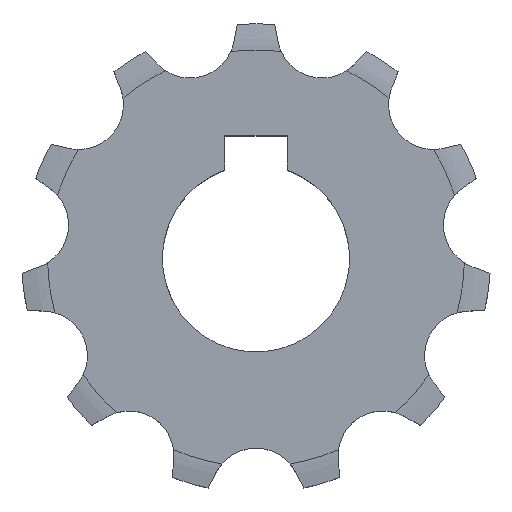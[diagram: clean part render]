
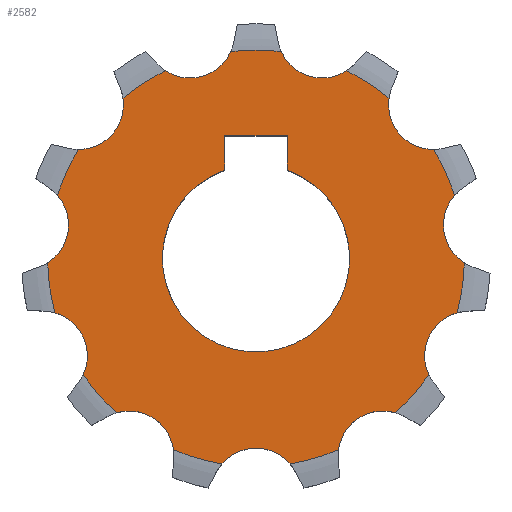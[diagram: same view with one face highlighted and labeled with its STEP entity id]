
A CAD part, top view. The second image highlights one B-rep face of the part: STEP entity #2582.
In plain terms, the highlighted planar face has unit normal (0, 0, 1).
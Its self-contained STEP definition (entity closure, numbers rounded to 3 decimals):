
#33=CARTESIAN_POINT('',(6.35,21.626,3.6));
#34=DIRECTION('',(0.,0.,1.));
#35=DIRECTION('',(-0.913,-0.408,0.));
#36=AXIS2_PLACEMENT_3D('',#33,#34,#35);
#42=CARTESIAN_POINT('',(0.,0.,3.6));
#43=DIRECTION('',(0.,0.,-1.));
#44=DIRECTION('',(0.435,0.901,0.));
#45=AXIS2_PLACEMENT_3D('',#42,#43,#44);
#50=CARTESIAN_POINT('',(17.034,14.76,3.6));
#51=DIRECTION('',(0.,0.,1.));
#52=DIRECTION('',(-0.989,0.151,0.));
#53=AXIS2_PLACEMENT_3D('',#50,#51,#52);
#58=CARTESIAN_POINT('',(0.,0.,3.6));
#59=DIRECTION('',(0.,0.,-1.));
#60=DIRECTION('',(0.853,0.523,0.));
#61=AXIS2_PLACEMENT_3D('',#58,#59,#60);
#66=CARTESIAN_POINT('',(22.31,3.208,3.6));
#67=DIRECTION('',(0.,0.,1.));
#68=DIRECTION('',(-0.75,0.661,0.));
#69=AXIS2_PLACEMENT_3D('',#66,#67,#68);
#74=CARTESIAN_POINT('',(0.,0.,3.6));
#75=DIRECTION('',(0.,0.,-1.));
#76=DIRECTION('',(1.,-0.021,0.));
#77=AXIS2_PLACEMENT_3D('',#74,#75,#76);
#82=CARTESIAN_POINT('',(20.502,-9.363,3.6));
#83=DIRECTION('',(0.,0.,1.));
#84=DIRECTION('',(-0.273,0.962,0.));
#85=AXIS2_PLACEMENT_3D('',#82,#83,#84);
#90=CARTESIAN_POINT('',(0.,0.,3.6));
#91=DIRECTION('',(0.,0.,-1.));
#92=DIRECTION('',(0.83,-0.558,0.));
#93=AXIS2_PLACEMENT_3D('',#90,#91,#92);
#98=CARTESIAN_POINT('',(12.186,-18.961,3.6));
#99=DIRECTION('',(0.,0.,1.));
#100=DIRECTION('',(0.29,0.957,0.));
#101=AXIS2_PLACEMENT_3D('',#98,#99,#100);
#106=CARTESIAN_POINT('',(0.,0.,3.6));
#107=DIRECTION('',(0.,0.,-1.));
#108=DIRECTION('',(0.396,-0.918,0.));
#109=AXIS2_PLACEMENT_3D('',#106,#107,#108);
#114=CARTESIAN_POINT('',(0.,-22.539,3.6));
#115=DIRECTION('',(0.,0.,1.));
#116=DIRECTION('',(0.761,0.648,0.));
#117=AXIS2_PLACEMENT_3D('',#114,#115,#116);
#122=CARTESIAN_POINT('',(0.,0.,3.6));
#123=DIRECTION('',(0.,0.,-1.));
#124=DIRECTION('',(-0.163,-0.987,0.));
#125=AXIS2_PLACEMENT_3D('',#122,#123,#124);
#130=CARTESIAN_POINT('',(-12.186,-18.961,3.6));
#131=DIRECTION('',(0.,0.,1.));
#132=DIRECTION('',(0.991,0.134,0.));
#133=AXIS2_PLACEMENT_3D('',#130,#131,#132);
#138=CARTESIAN_POINT('',(0.,0.,3.6));
#139=DIRECTION('',(0.,0.,-1.));
#140=DIRECTION('',(-0.671,-0.742,0.));
#141=AXIS2_PLACEMENT_3D('',#138,#139,#140);
#146=CARTESIAN_POINT('',(-20.502,-9.363,3.6));
#147=DIRECTION('',(0.,0.,1.));
#148=DIRECTION('',(0.906,-0.423,0.));
#149=AXIS2_PLACEMENT_3D('',#146,#147,#148);
#154=CARTESIAN_POINT('',(0.,0.,3.6));
#155=DIRECTION('',(0.,0.,-1.));
#156=DIRECTION('',(-0.965,-0.261,0.));
#157=AXIS2_PLACEMENT_3D('',#154,#155,#156);
#162=CARTESIAN_POINT('',(-22.31,3.208,3.6));
#163=DIRECTION('',(0.,0.,1.));
#164=DIRECTION('',(0.533,-0.846,0.));
#165=AXIS2_PLACEMENT_3D('',#162,#163,#164);
#170=CARTESIAN_POINT('',(0.,0.,3.6));
#171=DIRECTION('',(0.,0.,-1.));
#172=DIRECTION('',(-0.953,0.302,0.));
#173=AXIS2_PLACEMENT_3D('',#170,#171,#172);
#178=CARTESIAN_POINT('',(-17.034,14.76,3.6));
#179=DIRECTION('',(0.,0.,1.));
#180=DIRECTION('',(-0.009,-1.,0.));
#181=AXIS2_PLACEMENT_3D('',#178,#179,#180);
#186=CARTESIAN_POINT('',(0.,0.,3.6));
#187=DIRECTION('',(0.,0.,-1.));
#188=DIRECTION('',(-0.639,0.77,0.));
#189=AXIS2_PLACEMENT_3D('',#186,#187,#188);
#194=CARTESIAN_POINT('',(-6.35,21.626,3.6));
#195=DIRECTION('',(0.,0.,1.));
#196=DIRECTION('',(-0.548,-0.837,0.));
#197=AXIS2_PLACEMENT_3D('',#194,#195,#196);
#202=DIRECTION('',(0.,1.,0.));
#203=VECTOR('',#202,3.315);
#204=CARTESIAN_POINT('',(3.,8.485,3.6));
#205=LINE('',#204,#203);
#209=DIRECTION('',(-1.,0.,0.));
#210=VECTOR('',#209,6.);
#211=CARTESIAN_POINT('',(3.,11.8,3.6));
#212=LINE('',#211,#210);
#216=DIRECTION('',(0.,-1.,0.));
#217=VECTOR('',#216,3.315);
#218=CARTESIAN_POINT('',(-3.,11.8,3.6));
#219=LINE('',#218,#217);
#255=CARTESIAN_POINT('',(0.,0.,3.6));
#256=DIRECTION('',(0.,0.,1.));
#257=DIRECTION('',(0.121,0.993,0.));
#258=AXIS2_PLACEMENT_3D('',#255,#256,#257);
#1224=CARTESIAN_POINT('',(0.,0.,3.6));
#1225=DIRECTION('',(0.,0.,-1.));
#1226=DIRECTION('',(0.333,0.943,0.));
#1227=AXIS2_PLACEMENT_3D('',#1224,#1225,#1226);
#1416=CARTESIAN_POINT('',(2.426,19.874,3.6));
#2243=CARTESIAN_POINT('',(8.704,18.031,3.6));
#2244=CARTESIAN_POINT('',(12.786,15.408,3.6));
#2245=VERTEX_POINT('',#2243);
#2246=VERTEX_POINT('',#2244);
#2247=CARTESIAN_POINT('',(17.071,10.463,3.6));
#2248=CARTESIAN_POINT('',(19.086,6.05,3.6));
#2249=VERTEX_POINT('',#2247);
#2250=VERTEX_POINT('',#2248);
#2251=CARTESIAN_POINT('',(20.017,-0.427,3.6));
#2252=CARTESIAN_POINT('',(19.327,-5.229,3.6));
#2253=VERTEX_POINT('',#2251);
#2254=VERTEX_POINT('',#2252);
#2255=CARTESIAN_POINT('',(-3.272,-19.753,3.6));
#2256=CARTESIAN_POINT('',(-7.927,-18.386,3.6));
#2257=VERTEX_POINT('',#2255);
#2258=VERTEX_POINT('',#2256);
#2259=CARTESIAN_POINT('',(-13.432,-14.848,3.6));
#2260=CARTESIAN_POINT('',(-16.609,-11.182,3.6));
#2261=VERTEX_POINT('',#2259);
#2262=VERTEX_POINT('',#2260);
#2263=CARTESIAN_POINT('',(-19.327,-5.229,3.6));
#2264=CARTESIAN_POINT('',(-20.017,-0.427,3.6));
#2265=VERTEX_POINT('',#2263);
#2266=VERTEX_POINT('',#2264);
#2267=CARTESIAN_POINT('',(-19.086,6.05,3.6));
#2268=CARTESIAN_POINT('',(-17.071,10.463,3.6));
#2269=VERTEX_POINT('',#2267);
#2270=VERTEX_POINT('',#2268);
#2300=VERTEX_POINT('',#1416);
#2323=CARTESIAN_POINT('',(16.609,-11.182,3.6));
#2324=VERTEX_POINT('',#2323);
#2327=CARTESIAN_POINT('',(13.432,-14.848,3.6));
#2328=CARTESIAN_POINT('',(7.927,-18.386,3.6));
#2329=VERTEX_POINT('',#2327);
#2330=VERTEX_POINT('',#2328);
#2335=CARTESIAN_POINT('',(3.272,-19.753,3.6));
#2336=VERTEX_POINT('',#2335);
#2359=CARTESIAN_POINT('',(-12.786,15.408,3.6));
#2360=CARTESIAN_POINT('',(-8.704,18.031,3.6));
#2361=VERTEX_POINT('',#2359);
#2362=VERTEX_POINT('',#2360);
#2467=CARTESIAN_POINT('',(-2.426,19.874,3.6));
#2468=VERTEX_POINT('',#2467);
#2479=CARTESIAN_POINT('',(3.,8.485,3.6));
#2480=VERTEX_POINT('',#2479);
#2481=CARTESIAN_POINT('',(-3.,8.485,3.6));
#2482=VERTEX_POINT('',#2481);
#2483=CARTESIAN_POINT('',(3.,11.8,3.6));
#2484=VERTEX_POINT('',#2483);
#2485=CARTESIAN_POINT('',(-3.,11.8,3.6));
#2486=VERTEX_POINT('',#2485);
#2521=CARTESIAN_POINT('',(0.,0.,3.6));
#2522=DIRECTION('',(0.,0.,1.));
#2523=DIRECTION('',(1.,0.,0.));
#2524=AXIS2_PLACEMENT_3D('',#2521,#2522,#2523);
#2525=PLANE('',#2524);
#2527=ORIENTED_EDGE('',*,*,#2526,.F.);
#2529=ORIENTED_EDGE('',*,*,#2528,.T.);
#2531=ORIENTED_EDGE('',*,*,#2530,.T.);
#2533=ORIENTED_EDGE('',*,*,#2532,.T.);
#2535=ORIENTED_EDGE('',*,*,#2534,.T.);
#2537=ORIENTED_EDGE('',*,*,#2536,.T.);
#2539=ORIENTED_EDGE('',*,*,#2538,.T.);
#2541=ORIENTED_EDGE('',*,*,#2540,.T.);
#2543=ORIENTED_EDGE('',*,*,#2542,.T.);
#2545=ORIENTED_EDGE('',*,*,#2544,.T.);
#2547=ORIENTED_EDGE('',*,*,#2546,.T.);
#2549=ORIENTED_EDGE('',*,*,#2548,.T.);
#2551=ORIENTED_EDGE('',*,*,#2550,.T.);
#2553=ORIENTED_EDGE('',*,*,#2552,.T.);
#2555=ORIENTED_EDGE('',*,*,#2554,.T.);
#2557=ORIENTED_EDGE('',*,*,#2556,.T.);
#2559=ORIENTED_EDGE('',*,*,#2558,.T.);
#2561=ORIENTED_EDGE('',*,*,#2560,.T.);
#2563=ORIENTED_EDGE('',*,*,#2562,.T.);
#2565=ORIENTED_EDGE('',*,*,#2564,.T.);
#2567=ORIENTED_EDGE('',*,*,#2566,.T.);
#2569=ORIENTED_EDGE('',*,*,#2568,.T.);
#2570=EDGE_LOOP('',(#2527,#2529,#2531,#2533,#2535,#2537,#2539,#2541,#2543,#2545,
#2547,#2549,#2551,#2553,#2555,#2557,#2559,#2561,#2563,#2565,#2567,#2569));
#2571=FACE_OUTER_BOUND('',#2570,.F.);
#2573=ORIENTED_EDGE('',*,*,#2572,.T.);
#2575=ORIENTED_EDGE('',*,*,#2574,.T.);
#2577=ORIENTED_EDGE('',*,*,#2576,.T.);
#2579=ORIENTED_EDGE('',*,*,#2578,.F.);
#2580=EDGE_LOOP('',(#2573,#2575,#2577,#2579));
#2581=FACE_BOUND('',#2580,.F.);
#2582=ADVANCED_FACE('',(#2571,#2581),#2525,.T.);
#37=CIRCLE('',#36,4.298);
#46=CIRCLE('',#45,20.022);
#54=CIRCLE('',#53,4.298);
#62=CIRCLE('',#61,20.022);
#70=CIRCLE('',#69,4.298);
#78=CIRCLE('',#77,20.022);
#86=CIRCLE('',#85,4.298);
#94=CIRCLE('',#93,20.022);
#102=CIRCLE('',#101,4.298);
#110=CIRCLE('',#109,20.022);
#118=CIRCLE('',#117,4.298);
#126=CIRCLE('',#125,20.022);
#134=CIRCLE('',#133,4.298);
#142=CIRCLE('',#141,20.022);
#150=CIRCLE('',#149,4.298);
#158=CIRCLE('',#157,20.022);
#166=CIRCLE('',#165,4.298);
#174=CIRCLE('',#173,20.022);
#182=CIRCLE('',#181,4.298);
#190=CIRCLE('',#189,20.022);
#198=CIRCLE('',#197,4.298);
#259=CIRCLE('',#258,20.022);
#1228=CIRCLE('',#1227,9.);
#2526=EDGE_CURVE('',#2300,#2468,#259,.T.);
#2528=EDGE_CURVE('',#2300,#2245,#37,.T.);
#2530=EDGE_CURVE('',#2245,#2246,#46,.T.);
#2532=EDGE_CURVE('',#2246,#2249,#54,.T.);
#2534=EDGE_CURVE('',#2249,#2250,#62,.T.);
#2536=EDGE_CURVE('',#2250,#2253,#70,.T.);
#2538=EDGE_CURVE('',#2253,#2254,#78,.T.);
#2540=EDGE_CURVE('',#2254,#2324,#86,.T.);
#2542=EDGE_CURVE('',#2324,#2329,#94,.T.);
#2544=EDGE_CURVE('',#2329,#2330,#102,.T.);
#2546=EDGE_CURVE('',#2330,#2336,#110,.T.);
#2548=EDGE_CURVE('',#2336,#2257,#118,.T.);
#2550=EDGE_CURVE('',#2257,#2258,#126,.T.);
#2552=EDGE_CURVE('',#2258,#2261,#134,.T.);
#2554=EDGE_CURVE('',#2261,#2262,#142,.T.);
#2556=EDGE_CURVE('',#2262,#2265,#150,.T.);
#2558=EDGE_CURVE('',#2265,#2266,#158,.T.);
#2560=EDGE_CURVE('',#2266,#2269,#166,.T.);
#2562=EDGE_CURVE('',#2269,#2270,#174,.T.);
#2564=EDGE_CURVE('',#2270,#2361,#182,.T.);
#2566=EDGE_CURVE('',#2361,#2362,#190,.T.);
#2568=EDGE_CURVE('',#2362,#2468,#198,.T.);
#2572=EDGE_CURVE('',#2480,#2484,#205,.T.);
#2574=EDGE_CURVE('',#2484,#2486,#212,.T.);
#2576=EDGE_CURVE('',#2486,#2482,#219,.T.);
#2578=EDGE_CURVE('',#2480,#2482,#1228,.T.);
